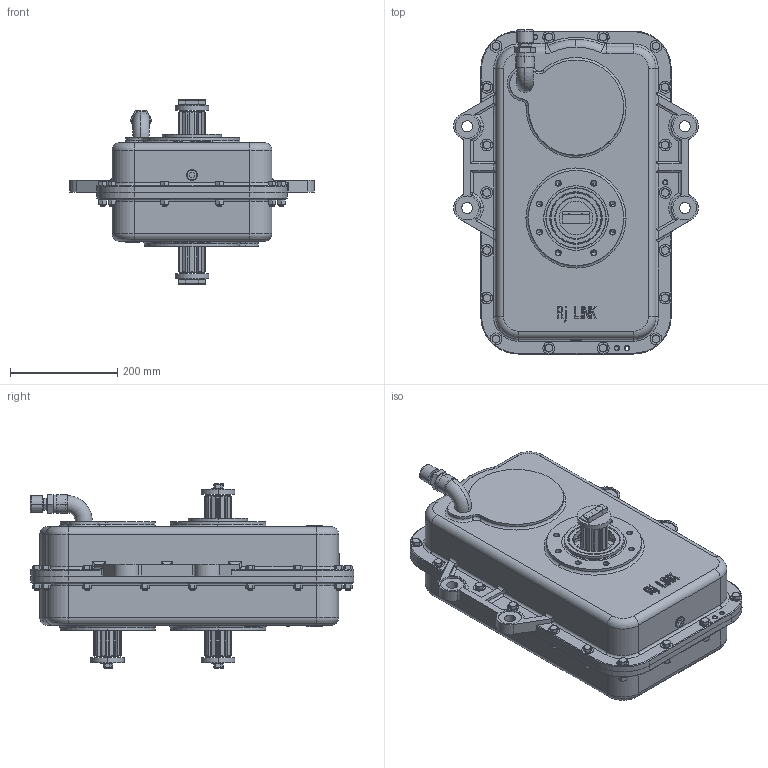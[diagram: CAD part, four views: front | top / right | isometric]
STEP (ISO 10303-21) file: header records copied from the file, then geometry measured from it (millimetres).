
FILE_DESCRIPTION (( 'STEP AP214' ), '1' );
FILE_NAME ('D181A1030021.STEP', '2022-03-11T16:00:34', ( '' ), ( '' ), 'SwSTEP 2.0', 'SolidWorks 2021', '' );
FILE_SCHEMA (( 'AUTOMOTIVE_DESIGN' ));
Length unit declared in the file: inch
Products named in the file (26): BB6411_2_3; AV1637-050800_6; OS3_000X3_751-2_2; D181008_2; D181011_7; BB6411_2; PPSKG_75-14_16; OS2_938X3_751-2_5; D181004_2; HH8CSZ_38-16X1_25; DWL_38X1_00_21; PPSKM_50-14_9; D181003_2; D181A1030021; D181009_3; LWZ_38_44; D181002_2; STEL1_00NPT90_23; NP266409-1_41; BB6411_2_2; RB1_00X_50NPT_7; DS90081A106_48; HNZ_38-16_17; HHCSZ_38-16X1_50_7; D181001_2
Assembly tree (90 placements, depth 3):
  D181A1030021
    D181001_2
    DWL_38X1_00_21  x2
    BB6411_2  x3
      BB6411_2_3
      BB6411_2
      BB6411_2_2
    D181003_2
    D181004_2
    D181002_2
    D181008_2
    D181009_3  x3
    STEL1_00NPT90_23
    PPSKG_75-14_16
    HHCSZ_38-16X1_50_7  x18
    LWZ_38_44  x18
    HNZ_38-16_17  x18
    D181011_7  x3
    HH8CSZ_38-16X1_25  x6
    PPSKM_50-14_9
    OS3_000X3_751-2_2
    NP266409-1_41
    DS90081A106_48  x2
    OS2_938X3_751-2_5  x2
    RB1_00X_50NPT_7
    AV1637-050800_6
Bounding box: 457.2 x 605.03 x 345.09 mm (x, y, z)
Volume: 1443594.6 mm3; surface area: 2242115.1 mm2
Topology: 65 solids, 139 shells, 3930 faces, 9956 edges, 6378 vertices
Faces by surface type: plane 1790, cylinder 1218, cone 303, bspline 300, torus 261, sphere 58
Entity records: 158673 total; most frequent: CARTESIAN_POINT 48506, ORIENTED_EDGE 15180, DIRECTION 14123, EDGE_CURVE 7638, AXIS2_PLACEMENT_3D 5022, VERTEX_POINT 4884, LINE 4079, VECTOR 4079
